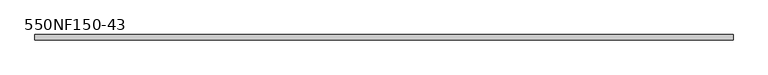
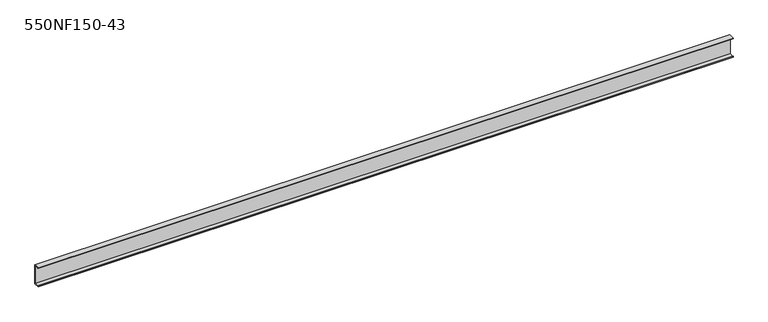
"""IFC4 building model written with IfcOpenShell, lengths in millimetres: beam geometry, BIMSF-SSMA-S : 550NF150-43."""

from ifc_helpers import new_model, si_unit, frame, origin, place, context, project, spatial, polyline, outline, extrude, source, transform, mapped, element, save


def beam_550nf150_43_16bf4534(model_context):
    return source(origin(), model_context, "Body", "SweptSolid", [
        extrude(outline(polyline([(19.05, 69.85), (19.05, -69.85), (-19.05, -69.85), (-19.05, -65.0748), (-17.9003158, -65.0748), (-17.9003158, -68.7003158), (17.9003158, -68.7003158), (17.9003158, 68.7003158), (-17.9003158, 68.7003158), (-17.9003158, 65.0748), (-19.05, 65.0748), (-19.05, 69.85), (19.05, 69.85)])), frame((-2419.35, 0.0, 0.0), z_axis=(1.0, 0.0, 0.0), x_axis=(0.0, 1.0, 0.0)), (0.0, 0.0, 1.0), 4838.7),
    ])


if __name__ == "__main__":
    model = new_model("IFC4")
    model_context = context("Model", 3, world=origin())
    ifc_project = project(units=[si_unit("LENGTHUNIT", "METRE", prefix="MILLI")], contexts=[model_context])
    site = spatial("IfcSite", under=ifc_project)
    building = spatial("IfcBuilding", under=site)
    placement = place(None, origin())
    beam_550nf150_43_shape = beam_550nf150_43_16bf4534(model_context)
    element("IfcBeam", 1, ObjectType="BIMSF-SSMA-S : 550NF150-43", at=placement, inside=building, context=model_context, shape_type="MappedRepresentation", body=[
        mapped(beam_550nf150_43_shape, transform((0.0, 0.0, 0.0), x_axis=(1.0, 0.0, 0.0), y_axis=(0.0, 1.0, 0.0), z_axis=(0.0, 0.0, 1.0))),
    ])
    save(model, "model.ifc")
